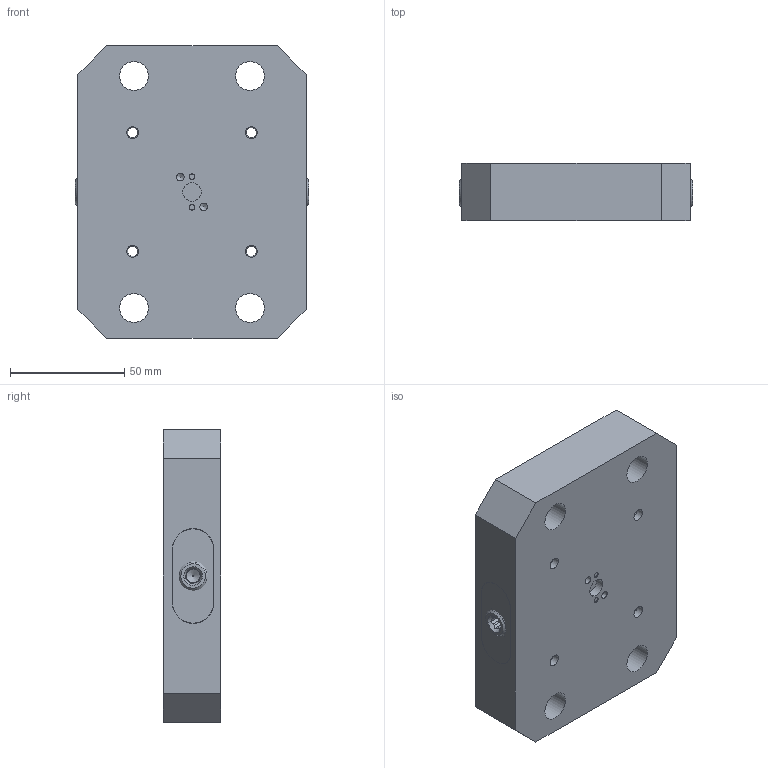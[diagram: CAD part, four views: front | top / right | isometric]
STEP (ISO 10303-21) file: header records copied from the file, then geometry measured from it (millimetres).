
FILE_DESCRIPTION (( 'STEP AP214' ), '1' );
FILE_NAME ('RL52S-45_WEBSITE.STEP', '2025-08-11T12:03:40', ( '' ), ( '' ), 'SwSTEP 2.0', 'SolidWorks 2025', '' );
FILE_SCHEMA (( 'AUTOMOTIVE_DESIGN' ));
Length unit declared in the file: millimetre
Products named in the file (11): D_SB43_WEBSITE_92981A144; RL52S-45_WEBSITE; D_RL52-145S_WEBSITE_RL52-14560A & RL52-14560S; D_HW22X16.DB_WEBSITE; D_RL52-2L_WEBSITE; D_RL52-ASSY_WEBSITE; 9452K77-Truck-O-Ring_WEBSITE; 9452K168-Base-O-Ring_WEBSITE; D_RL52-3_WEBSITE; D_RL52-2R_WEBSITE; 9750K720_PLASTIC ROUND PLUG_WEBSITE_9750K72
Assembly tree (17 placements, depth 3):
  RL52S-45_WEBSITE
    D_RL52-145S_WEBSITE_RL52-14560A & RL52-14560S
    D_RL52-ASSY_WEBSITE
      D_RL52-2L_WEBSITE
      D_RL52-2R_WEBSITE
      D_RL52-3_WEBSITE
      D_HW22X16.DB_WEBSITE  x4
      D_SB43_WEBSITE_92981A144  x2
    9452K168-Base-O-Ring_WEBSITE  x4
    9452K77-Truck-O-Ring_WEBSITE  x2
  9750K720_PLASTIC ROUND PLUG_WEBSITE_9750K72
Bounding box: 102.11 x 25 x 128.27 mm (x, y, z)
Volume: 262700.6 mm3; surface area: 71224 mm2
Topology: 18 solids, 18 shells, 278 faces, 598 edges, 373 vertices
Faces by surface type: plane 161, cylinder 87, cone 22, torus 6, bspline 2
Full cylindrical faces by diameter (mm): 0.254 x2, 2.5 x2, 3 x2, 3.3 x2, 4 x2, 4.089 x2, 5.182 x4, 6 x2, 6.147 x2, 7 x2, 8.026 x1, 8.89 x1, 9.144 x4, 9.525 x4, 12 x2, 12.725 x4, 13.754 x2, 15.24 x2, 15.291 x4, 15.875 x1, 16.002 x4, 16.03 x4, 20.574 x4, 21.981 x4, 21.994 x4, 22.047 x4
Entity records: 7864 total; most frequent: CARTESIAN_POINT 2347, DIRECTION 1108, ORIENTED_EDGE 876, AXIS2_PLACEMENT_3D 451, EDGE_CURVE 438, EDGE_LOOP 378, VERTEX_POINT 316, FACE_OUTER_BOUND 300
